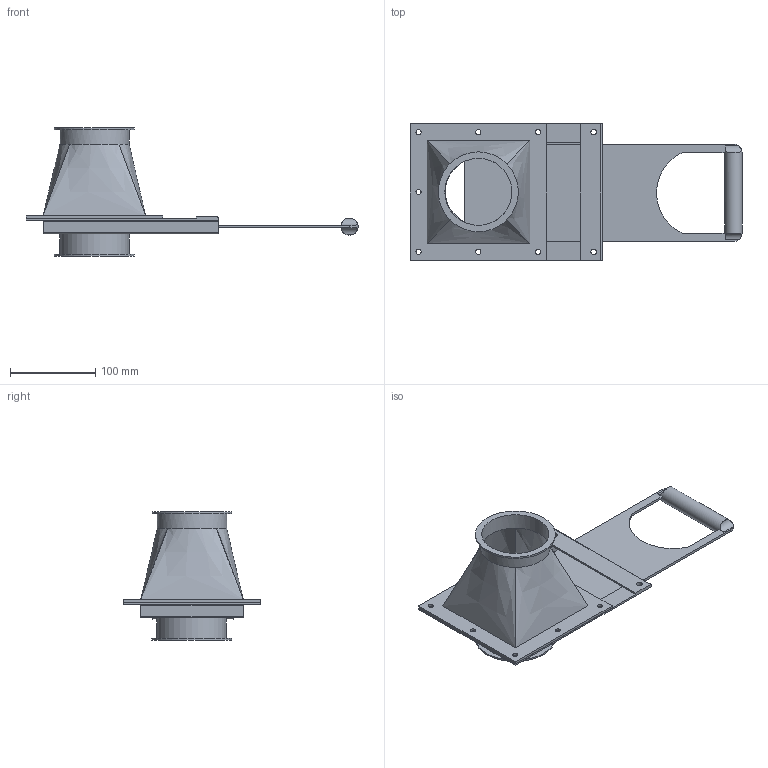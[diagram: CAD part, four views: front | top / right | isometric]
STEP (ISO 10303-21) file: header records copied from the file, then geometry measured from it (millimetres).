
FILE_DESCRIPTION((''),'2;1');
FILE_NAME('U:\Wolfgang\Marcel-3D\fertig\Kapitel 9\0811080.stp','2011-10-11T12:58:11',('iwienholt'),(''),'Autodesk Inventor 2010','Autodesk Inventor 2010','');
FILE_SCHEMA(('AUTOMOTIVE_DESIGN { 1 0 10303 214 1 1 1 1 }'));
Length unit declared in the file: millimetre
Products named in the file (4): 0811080; DN80-1; DN80-2; Schieberplatte DN80
Assembly tree (3 placements, depth 2):
  0811080
    DN80-1
    DN80-2
    Schieberplatte DN80
Bounding box: 388.5 x 160 x 150 mm (x, y, z)
Volume: 314095.9 mm3; surface area: 278383.9 mm2
Topology: 3 solids, 3 shells, 107 faces, 298 edges, 199 vertices
Faces by surface type: plane 59, bspline 25, cylinder 23
Full cylindrical faces by diameter (mm): 6 x1, 20 x1, 77.5 x1, 78.5 x1, 80.5 x1, 81.5 x2, 93.5 x2
Entity records: 4140 total; most frequent: CARTESIAN_POINT 1447, ORIENTED_EDGE 522, DIRECTION 493, EDGE_CURVE 261, VERTEX_POINT 188, EDGE_LOOP 177, AXIS2_PLACEMENT_3D 176, VECTOR 141
